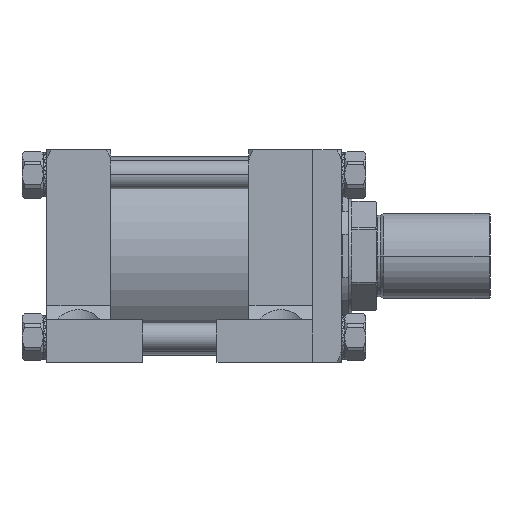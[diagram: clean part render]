
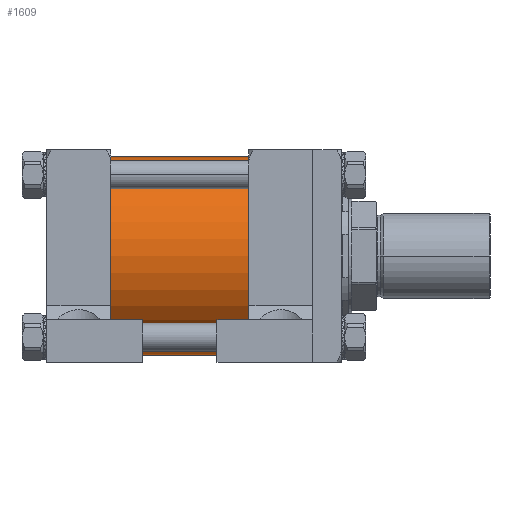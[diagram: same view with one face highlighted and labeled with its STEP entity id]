
A CAD part, front view. The second image highlights one B-rep face of the part: STEP entity #1609.
In plain terms, the highlighted cylindrical face has radius 88.9 mm (diameter 177.8 mm), a partial arc.
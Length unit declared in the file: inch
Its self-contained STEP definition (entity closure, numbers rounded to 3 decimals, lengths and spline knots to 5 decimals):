
#455 = VECTOR ( 'NONE', #32940, 39.37008 ) ;
#901 = CARTESIAN_POINT ( 'NONE',  ( -9.625, 0., 0. ) ) ;
#1609 = ADVANCED_FACE ( 'NONE', ( #35256 ), #19900, .T. ) ;
#2893 = AXIS2_PLACEMENT_3D ( 'NONE', #8870, #3917, #51437 ) ;
#3586 = CARTESIAN_POINT ( 'NONE',  ( -9.625, 0., -3.5 ) ) ;
#3917 = DIRECTION ( 'NONE',  ( 1., 0., 0. ) ) ;
#6508 = EDGE_CURVE ( 'NONE', #12123, #50556, #37975, .T. ) ;
#6799 = CARTESIAN_POINT ( 'NONE',  ( -9.625, 0., 3.5 ) ) ;
#6992 = DIRECTION ( 'NONE',  ( 0., 1., 0. ) ) ;
#7662 = AXIS2_PLACEMENT_3D ( 'NONE', #901, #49646, #58757 ) ;
#8870 = CARTESIAN_POINT ( 'NONE',  ( -4.25, 0., 0. ) ) ;
#11419 = LINE ( 'NONE', #6799, #20215 ) ;
#11776 = EDGE_CURVE ( 'NONE', #36686, #50556, #29776, .T. ) ;
#12123 = VERTEX_POINT ( 'NONE', #3586 ) ;
#13510 = CARTESIAN_POINT ( 'NONE',  ( -9.625, 0., -3.5 ) ) ;
#15995 = DIRECTION ( 'NONE',  ( 1., 0., 0. ) ) ;
#16343 = EDGE_LOOP ( 'NONE', ( #38324, #48928, #34500, #36616 ) ) ;
#19900 = CYLINDRICAL_SURFACE ( 'NONE', #7662, 3.5 ) ;
#20215 = VECTOR ( 'NONE', #49655, 39.37008 ) ;
#20363 = CARTESIAN_POINT ( 'NONE',  ( -9.625, 0., 3.5 ) ) ;
#22112 = AXIS2_PLACEMENT_3D ( 'NONE', #49845, #15995, #6992 ) ;
#24545 = EDGE_CURVE ( 'NONE', #24939, #36686, #11419, .T. ) ;
#24939 = VERTEX_POINT ( 'NONE', #20363 ) ;
#29776 = CIRCLE ( 'NONE', #2893, 3.5 ) ;
#30449 = CARTESIAN_POINT ( 'NONE',  ( -4.25, 0., 3.5 ) ) ;
#32940 = DIRECTION ( 'NONE',  ( 1., 0., 0. ) ) ;
#34500 = ORIENTED_EDGE ( 'NONE', *, *, #6508, .T. ) ;
#35256 = FACE_OUTER_BOUND ( 'NONE', #16343, .T. ) ;
#36616 = ORIENTED_EDGE ( 'NONE', *, *, #11776, .F. ) ;
#36686 = VERTEX_POINT ( 'NONE', #30449 ) ;
#37975 = LINE ( 'NONE', #13510, #455 ) ;
#38324 = ORIENTED_EDGE ( 'NONE', *, *, #24545, .F. ) ;
#41519 = EDGE_CURVE ( 'NONE', #24939, #12123, #61164, .T. ) ;
#48928 = ORIENTED_EDGE ( 'NONE', *, *, #41519, .T. ) ;
#49646 = DIRECTION ( 'NONE',  ( 1., 0., 0. ) ) ;
#49655 = DIRECTION ( 'NONE',  ( 1., 0., 0. ) ) ;
#49845 = CARTESIAN_POINT ( 'NONE',  ( -9.625, 0., 0. ) ) ;
#50556 = VERTEX_POINT ( 'NONE', #60950 ) ;
#51437 = DIRECTION ( 'NONE',  ( 0., 1., 0. ) ) ;
#58757 = DIRECTION ( 'NONE',  ( 0., 0., -1. ) ) ;
#60950 = CARTESIAN_POINT ( 'NONE',  ( -4.25, 0., -3.5 ) ) ;
#61164 = CIRCLE ( 'NONE', #22112, 3.5 ) ;
